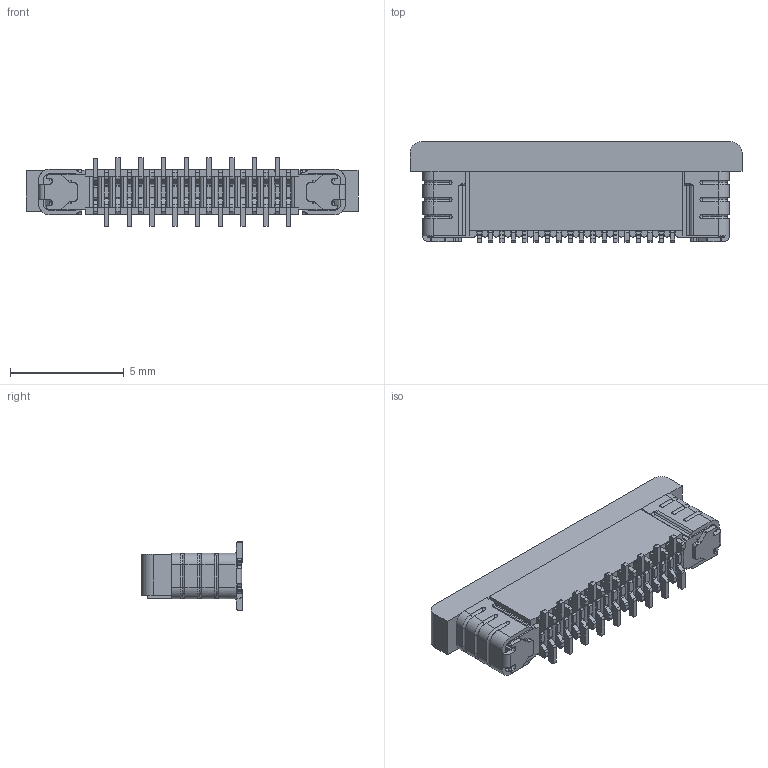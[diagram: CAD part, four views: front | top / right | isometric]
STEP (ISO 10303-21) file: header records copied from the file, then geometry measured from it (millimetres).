
FILE_DESCRIPTION (( 'STEP AP203' ), '1' );
FILE_NAME ('2345-C18TD3AT-S-1120605.STEP', '2023-06-05T10:06:18', ( '' ), ( '' ), 'SwSTEP 2.0', 'SolidWorks 2019', '' );
FILE_SCHEMA (( 'CONFIG_CONTROL_DESIGN' ));
Length unit declared in the file: millimetre
Products named in the file (2): 2345-C18TD3AT-S-1120605
Assembly tree (1 placements, depth 2):
  2345-C18TD3AT-S-1120605
    2345-C18TD3AT-S-1120605
Bounding box: 14.6 x 4.43 x 3 mm (x, y, z)
Volume: 96 mm3; surface area: 422.2 mm2
Topology: 19 solids, 19 shells, 1495 faces, 4124 edges, 2657 vertices
Faces by surface type: plane 939, cylinder 515, torus 20, sphere 16, bspline 5
Entity records: 48228 total; most frequent: CARTESIAN_POINT 9846, ORIENTED_EDGE 8192, DIRECTION 7708, EDGE_CURVE 4096, LINE 2858, VECTOR 2858, VERTEX_POINT 2657, AXIS2_PLACEMENT_3D 2425
